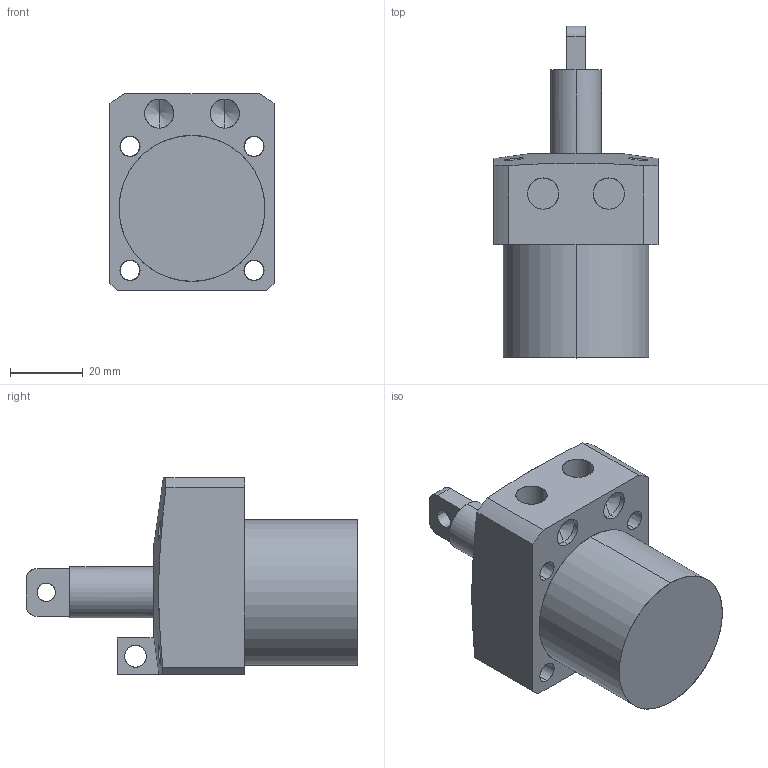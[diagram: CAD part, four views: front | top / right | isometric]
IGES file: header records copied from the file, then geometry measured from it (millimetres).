
Start section: SolidWorks IGES file using analytic representation for surfaces
Global section: file name: E:\karthik\pneu toogle\40\0412-0401.IGS; native system: SolidWorks 2010; preprocessor: SolidWorks 2010; author: karthik; date: 130916.171904; units: millimetre
Bounding box: 45 x 91 x 54 mm (x, y, z)
Surface area: 18167.5 mm2 (no closed solid volume)
Topology: 0 solids, 0 shells, 58 faces, 1203 edges, 1199 vertices
Faces by surface type: revolution 33, bspline 25
